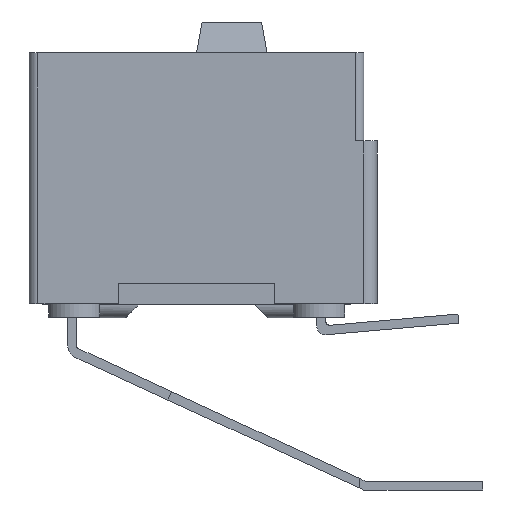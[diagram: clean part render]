
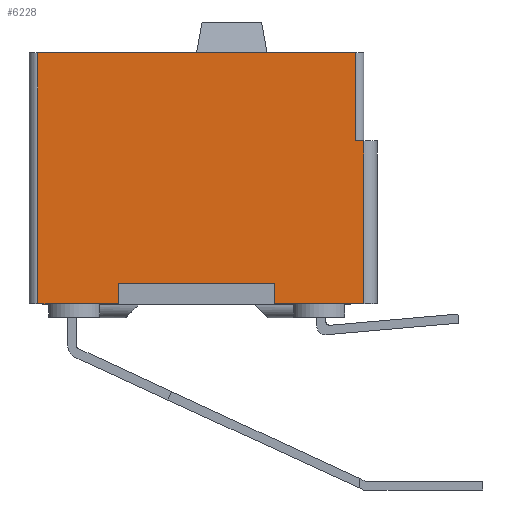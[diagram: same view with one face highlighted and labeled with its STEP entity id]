
A CAD part, left-side view. The second image highlights one B-rep face of the part: STEP entity #6228.
In plain terms, the highlighted planar face has unit normal (-1, 0, 0).
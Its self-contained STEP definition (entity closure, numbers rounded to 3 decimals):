
#52 = CARTESIAN_POINT ( 'NONE',  ( 0., -0.25, -7.239 ) ) ;
#199 = CARTESIAN_POINT ( 'NONE',  ( 0., -7.076, -6.639 ) ) ;
#293 = DIRECTION ( 'NONE',  ( 0., 1., 0. ) ) ;
#403 = EDGE_CURVE ( 'NONE', #7818, #13292, #15963, .T. ) ;
#475 = CARTESIAN_POINT ( 'NONE',  ( 0., -8.357, -7.239 ) ) ;
#960 = VECTOR ( 'NONE', #17466, 1000. ) ;
#1223 = CARTESIAN_POINT ( 'NONE',  ( 0., -9.652, -7.239 ) ) ;
#1287 = ORIENTED_EDGE ( 'NONE', *, *, #3290, .T. ) ;
#1350 = DIRECTION ( 'NONE',  ( 0., 1., 0. ) ) ;
#1353 = CARTESIAN_POINT ( 'NONE',  ( 0., -2.576, -7.239 ) ) ;
#1541 = CARTESIAN_POINT ( 'NONE',  ( 0., -2.576, -6.639 ) ) ;
#1712 = DIRECTION ( 'NONE',  ( 0., -1., 0. ) ) ;
#2679 = DIRECTION ( 'NONE',  ( 0., -1., 0. ) ) ;
#2714 = CARTESIAN_POINT ( 'NONE',  ( 0., -9.402, 0. ) ) ;
#3063 = DIRECTION ( 'NONE',  ( 0., 0., 1. ) ) ;
#3290 = EDGE_CURVE ( 'NONE', #10940, #3888, #14732, .T. ) ;
#3334 = VERTEX_POINT ( 'NONE', #2714 ) ;
#3822 = EDGE_CURVE ( 'NONE', #15965, #4312, #11731, .T. ) ;
#3828 = CARTESIAN_POINT ( 'NONE',  ( 0., -0.25, 0. ) ) ;
#3840 = DIRECTION ( 'NONE',  ( 0., 0., -1. ) ) ;
#3888 = VERTEX_POINT ( 'NONE', #1223 ) ;
#4083 = VERTEX_POINT ( 'NONE', #5792 ) ;
#4121 = VERTEX_POINT ( 'NONE', #8344 ) ;
#4215 = VERTEX_POINT ( 'NONE', #15330 ) ;
#4278 = CARTESIAN_POINT ( 'NONE',  ( 0., -0.25, -7.239 ) ) ;
#4312 = VERTEX_POINT ( 'NONE', #3828 ) ;
#4471 = VECTOR ( 'NONE', #293, 1000. ) ;
#4508 = DIRECTION ( 'NONE',  ( 0., -1., 0. ) ) ;
#4589 = ORIENTED_EDGE ( 'NONE', *, *, #7851, .T. ) ;
#5046 = EDGE_CURVE ( 'NONE', #4215, #8966, #13371, .T. ) ;
#5114 = EDGE_CURVE ( 'NONE', #10213, #8966, #10695, .T. ) ;
#5160 = VECTOR ( 'NONE', #3840, 1000. ) ;
#5560 = FACE_OUTER_BOUND ( 'NONE', #11842, .T. ) ;
#5619 = ORIENTED_EDGE ( 'NONE', *, *, #7149, .F. ) ;
#5792 = CARTESIAN_POINT ( 'NONE',  ( 0., -9.652, -2.54 ) ) ;
#6050 = CARTESIAN_POINT ( 'NONE',  ( 0., -9.402, -7.239 ) ) ;
#6228 = ADVANCED_FACE ( 'NONE', ( #5560 ), #6365, .T. ) ;
#6253 = CARTESIAN_POINT ( 'NONE',  ( 0., -0.25, -7.239 ) ) ;
#6365 = PLANE ( 'NONE',  #15189 ) ;
#6735 = CARTESIAN_POINT ( 'NONE',  ( 0., -9.402, -2.54 ) ) ;
#6789 = EDGE_CURVE ( 'NONE', #15965, #4215, #15156, .T. ) ;
#6801 = EDGE_CURVE ( 'NONE', #7818, #10213, #9754, .T. ) ;
#7149 = EDGE_CURVE ( 'NONE', #4312, #3334, #7418, .T. ) ;
#7418 = LINE ( 'NONE', #11217, #15659 ) ;
#7818 = VERTEX_POINT ( 'NONE', #199 ) ;
#7851 = EDGE_CURVE ( 'NONE', #4083, #4121, #13466, .T. ) ;
#7870 = CARTESIAN_POINT ( 'NONE',  ( 0., -7.076, -7.239 ) ) ;
#7992 = CARTESIAN_POINT ( 'NONE',  ( 0., -7.076, -6.639 ) ) ;
#8103 = ORIENTED_EDGE ( 'NONE', *, *, #12839, .F. ) ;
#8344 = CARTESIAN_POINT ( 'NONE',  ( 0., -9.402, -2.54 ) ) ;
#8665 = VECTOR ( 'NONE', #11844, 1000. ) ;
#8911 = ORIENTED_EDGE ( 'NONE', *, *, #6801, .F. ) ;
#8924 = DIRECTION ( 'NONE',  ( 0., -1., 0. ) ) ;
#8966 = VERTEX_POINT ( 'NONE', #1353 ) ;
#9754 = LINE ( 'NONE', #1541, #4471 ) ;
#9957 = VECTOR ( 'NONE', #3063, 1000. ) ;
#10030 = LINE ( 'NONE', #6050, #9957 ) ;
#10097 = VECTOR ( 'NONE', #1712, 1000. ) ;
#10152 = LINE ( 'NONE', #14239, #16977 ) ;
#10180 = ORIENTED_EDGE ( 'NONE', *, *, #12659, .T. ) ;
#10213 = VERTEX_POINT ( 'NONE', #10604 ) ;
#10232 = CARTESIAN_POINT ( 'NONE',  ( 0., -0.25, -7.239 ) ) ;
#10338 = DIRECTION ( 'NONE',  ( -1., 0., 0. ) ) ;
#10505 = ORIENTED_EDGE ( 'NONE', *, *, #5046, .T. ) ;
#10604 = CARTESIAN_POINT ( 'NONE',  ( 0., -2.576, -6.639 ) ) ;
#10695 = LINE ( 'NONE', #13098, #8665 ) ;
#10940 = VERTEX_POINT ( 'NONE', #475 ) ;
#11113 = VECTOR ( 'NONE', #1350, 1000. ) ;
#11217 = CARTESIAN_POINT ( 'NONE',  ( 0., -0.25, 0. ) ) ;
#11415 = VECTOR ( 'NONE', #11820, 1000. ) ;
#11491 = VECTOR ( 'NONE', #2679, 1000. ) ;
#11689 = ORIENTED_EDGE ( 'NONE', *, *, #403, .T. ) ;
#11731 = LINE ( 'NONE', #6253, #11415 ) ;
#11751 = CARTESIAN_POINT ( 'NONE',  ( 0., -0.25, -7.239 ) ) ;
#11780 = DIRECTION ( 'NONE',  ( 0., 0., -1. ) ) ;
#11820 = DIRECTION ( 'NONE',  ( 0., 0., 1. ) ) ;
#11842 = EDGE_LOOP ( 'NONE', ( #12645, #8911, #11689, #16938, #1287, #8103, #4589, #10180, #5619, #15737, #14637, #10505 ) ) ;
#11844 = DIRECTION ( 'NONE',  ( 0., 0., -1. ) ) ;
#12645 = ORIENTED_EDGE ( 'NONE', *, *, #5114, .F. ) ;
#12659 = EDGE_CURVE ( 'NONE', #4121, #3334, #10030, .T. ) ;
#12839 = EDGE_CURVE ( 'NONE', #4083, #3888, #14632, .T. ) ;
#13098 = CARTESIAN_POINT ( 'NONE',  ( 0., -2.576, -6.639 ) ) ;
#13292 = VERTEX_POINT ( 'NONE', #7870 ) ;
#13371 = LINE ( 'NONE', #14606, #11491 ) ;
#13466 = LINE ( 'NONE', #6735, #11113 ) ;
#13797 = VECTOR ( 'NONE', #11780, 1000. ) ;
#14239 = CARTESIAN_POINT ( 'NONE',  ( 0., -0.25, -7.239 ) ) ;
#14606 = CARTESIAN_POINT ( 'NONE',  ( 0., -0.25, -7.239 ) ) ;
#14632 = LINE ( 'NONE', #17452, #5160 ) ;
#14637 = ORIENTED_EDGE ( 'NONE', *, *, #6789, .T. ) ;
#14732 = LINE ( 'NONE', #52, #960 ) ;
#15156 = LINE ( 'NONE', #4278, #10097 ) ;
#15189 = AXIS2_PLACEMENT_3D ( 'NONE', #11751, #10338, #8924 ) ;
#15330 = CARTESIAN_POINT ( 'NONE',  ( 0., -1.295, -7.239 ) ) ;
#15659 = VECTOR ( 'NONE', #4508, 1000. ) ;
#15737 = ORIENTED_EDGE ( 'NONE', *, *, #3822, .F. ) ;
#15963 = LINE ( 'NONE', #7992, #13797 ) ;
#15965 = VERTEX_POINT ( 'NONE', #10232 ) ;
#16938 = ORIENTED_EDGE ( 'NONE', *, *, #17222, .T. ) ;
#16977 = VECTOR ( 'NONE', #17051, 1000. ) ;
#17051 = DIRECTION ( 'NONE',  ( 0., -1., 0. ) ) ;
#17222 = EDGE_CURVE ( 'NONE', #13292, #10940, #10152, .T. ) ;
#17452 = CARTESIAN_POINT ( 'NONE',  ( 0., -9.652, -2.54 ) ) ;
#17466 = DIRECTION ( 'NONE',  ( 0., -1., 0. ) ) ;
